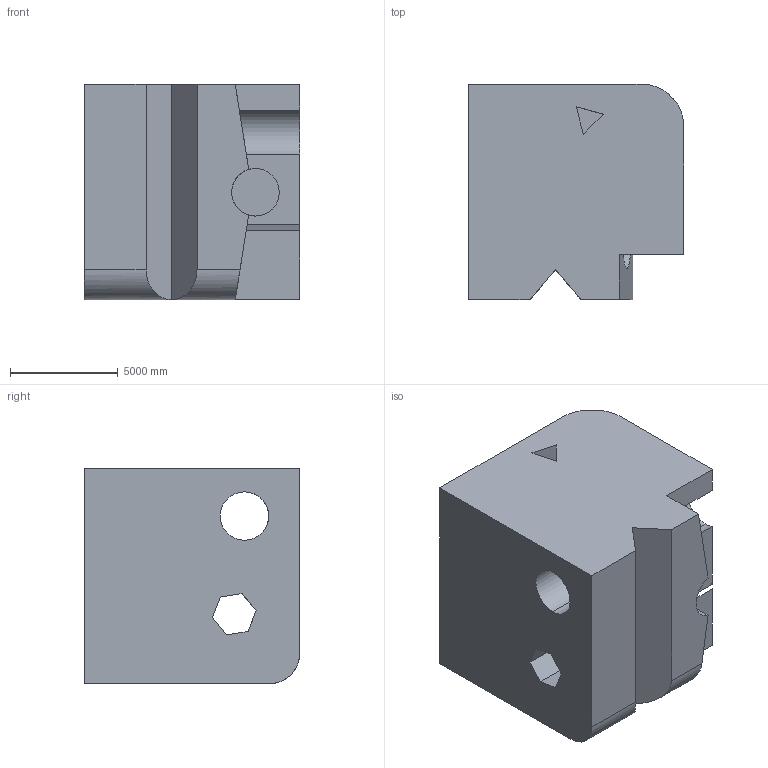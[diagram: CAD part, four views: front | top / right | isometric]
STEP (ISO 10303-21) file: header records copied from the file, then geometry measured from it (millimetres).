
FILE_DESCRIPTION (( 'STEP AP203' ), '1' );
FILE_NAME ('871.STEP', '2022-07-29T13:52:36', ( 'user' ), ( '' ), 'SwSTEP 2.0', 'SolidWorks 2021', '' );
FILE_SCHEMA (( 'CONFIG_CONTROL_DESIGN' ));
Length unit declared in the file: centimetre
Products named in the file (1): 871
Bounding box: 10000 x 10000 x 10000 mm (x, y, z)
Volume: 830217520775.5 mm3; surface area: 730324217.6 mm2
Topology: 1 solids, 1 shells, 35 faces, 108 edges, 72 vertices
Faces by surface type: plane 28, cylinder 7
Entity records: 1287 total; most frequent: CARTESIAN_POINT 246, ORIENTED_EDGE 216, DIRECTION 186, EDGE_CURVE 108, VECTOR 82, LINE 82, VERTEX_POINT 72, AXIS2_PLACEMENT_3D 52
